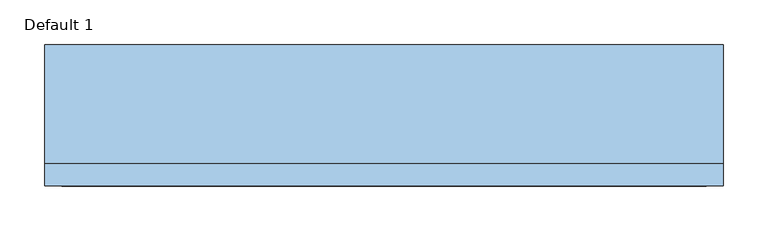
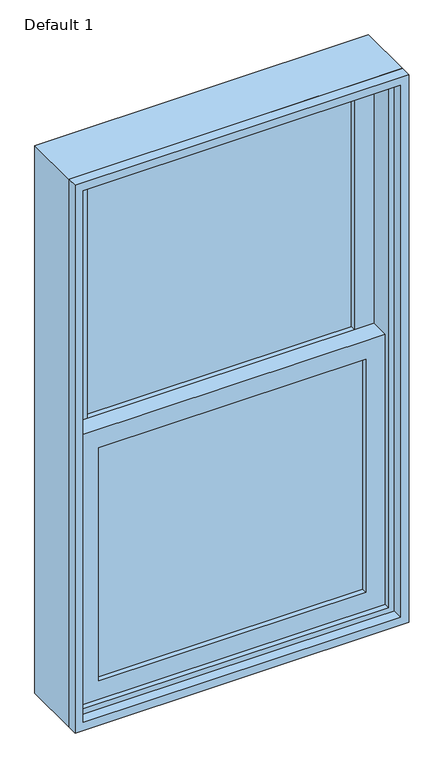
"""IFC4 building model written with IfcOpenShell, lengths in millimetres: window geometry, Planitar-Double-Hung-Single : Default 1."""

import ifcopenshell
import ifcopenshell.guid

model = None  # the IFC model being written
_history = None  # IfcOwnerHistory: only IFC2X3 demands one
_inside = {}  # id of a spatial element -> (the spatial element, [elements in it])
_under = {}  # id of a project, library or spatial element -> (it, [spatial elements below it])
_declared = {}  # id of a project -> (the project, [libraries it declares])
_typed = {}  # id of a type object -> (the type object, [elements of that type])
_made_of = {}  # id of a material, layer set ... -> (it, [elements and type objects made of it])


def new_model(schema):
    """Start an empty IFC model of exactly this schema.

    Asked for "IFC4X3", IfcOpenShell would pick the latest addendum, in which some entities
    have other attributes; the version numbers below select the first issue.
    IFC2X3 requires an IfcOwnerHistory on every rooted entity: one is made here for all.
    """
    global model, _history
    if schema == "IFC4X3":
        model = ifcopenshell.file(schema_version=(4, 3, 0, 0))
    else:
        model = ifcopenshell.file(schema=schema)
    _inside.clear()
    _under.clear()
    _declared.clear()
    _typed.clear()
    _made_of.clear()
    _history = None
    if model.schema == "IFC2X3":
        org = make("IfcOrganization", Name="unknown")
        user = make(
            "IfcPersonAndOrganization",
            ThePerson=make("IfcPerson", FamilyName="unknown"),
            TheOrganization=org,
        )
        app = make(
            "IfcApplication",
            ApplicationDeveloper=org,
            Version="unknown",
            ApplicationFullName="unknown",
            ApplicationIdentifier="unknown",
        )
        _history = make(
            "IfcOwnerHistory",
            OwningUser=user,
            OwningApplication=app,
            ChangeAction="ADDED",
            CreationDate=0,
        )
    return model


def make(cls, **values):
    """One entity of the class cls with the attributes given. An attribute that is None is left unset."""
    return model.create_entity(
        cls, **{name: value for name, value in values.items() if value is not None}
    )


def rooted(cls, **values):
    """An entity with a GlobalId (a new one), such as an element, a storey or a relation."""
    return make(cls, GlobalId=ifcopenshell.guid.new(), OwnerHistory=_history, **values)


def si_unit(unit_type, name, prefix=None):
    """IfcSIUnit, for example si_unit("LENGTHUNIT", "METRE", prefix="MILLI")."""
    return make("IfcSIUnit", UnitType=unit_type, Prefix=prefix, Name=name)


def assignment(units):
    """IfcUnitAssignment: the units of a project."""
    return None if units is None else make("IfcUnitAssignment", Units=units)


def point(xyz):
    """IfcCartesianPoint."""
    return None if xyz is None else make("IfcCartesianPoint", Coordinates=xyz)


def direction(xyz):
    """IfcDirection."""
    return None if xyz is None else make("IfcDirection", DirectionRatios=xyz)


def frame(location, z_axis=None, x_axis=None):
    """IfcAxis2Placement3D, a coordinate frame: its origin and axes. An axis left out is left unset."""
    return make(
        "IfcAxis2Placement3D",
        Location=point(location),
        Axis=direction(z_axis),
        RefDirection=direction(x_axis),
    )


def origin():
    """The frame at (0, 0, 0) with its axes left unset."""
    return frame((0.0, 0.0, 0.0))


def place(relative_to, where):
    """IfcLocalPlacement: puts the frame where relative to a parent placement (None: the world)."""
    return make(
        "IfcLocalPlacement", PlacementRelTo=relative_to, RelativePlacement=where
    )


def context(
    kind, dimensions, precision=None, world=None, true_north=None, identifier=None
):
    """IfcGeometricRepresentationContext, for example the 3D "Model" context."""
    return make(
        "IfcGeometricRepresentationContext",
        ContextIdentifier=identifier,
        ContextType=kind,
        CoordinateSpaceDimension=dimensions,
        Precision=precision,
        WorldCoordinateSystem=world,
        TrueNorth=true_north,
    )


def project(units=None, contexts=None):
    """IfcProject with its units and contexts."""
    return rooted(
        "IfcProject",
        Name="project",
        RepresentationContexts=contexts,
        UnitsInContext=assignment(units),
    )


def spatial(cls, under=None, at=None, **own):
    """A site, building, storey or space (cls), placed at a placement, below another one or the project."""
    s = rooted(cls, ObjectPlacement=at, **own)
    if under is not None:
        _under.setdefault(under.id(), (under, []))[1].append(s)
    return s


def polyline(points):
    """IfcPolyline through the points."""
    return make("IfcPolyline", Points=[point(p) for p in points])


def outline(outer, holes=None, kind="AREA"):
    """IfcArbitraryClosedProfileDef: a profile drawn as a closed curve; with holes, ...WithVoids."""
    if holes is None:
        return make("IfcArbitraryClosedProfileDef", ProfileType=kind, OuterCurve=outer)
    return make(
        "IfcArbitraryProfileDefWithVoids",
        ProfileType=kind,
        OuterCurve=outer,
        InnerCurves=holes,
    )


def extrude(swept, where, along, depth):
    """IfcExtrudedAreaSolid: the profile swept, set in the frame where, extruded along a direction by depth."""
    return make(
        "IfcExtrudedAreaSolid",
        SweptArea=swept,
        Position=where,
        ExtrudedDirection=direction(along),
        Depth=depth,
    )


def shape(context_of_items, identifier, shape_type, items):
    """IfcShapeRepresentation: the items that make up one representation, for example the "Body"."""
    return make(
        "IfcShapeRepresentation",
        ContextOfItems=context_of_items,
        RepresentationIdentifier=identifier,
        RepresentationType=shape_type,
        Items=items,
    )


def source(mapping_origin, context_of_items, identifier, shape_type, items):
    """IfcRepresentationMap: a shape defined once, which mapped items show again and again."""
    return make(
        "IfcRepresentationMap",
        MappingOrigin=mapping_origin,
        MappedRepresentation=shape(context_of_items, identifier, shape_type, items),
    )


def transform(
    local_origin,
    x_axis=None,
    y_axis=None,
    z_axis=None,
    scale=None,
    scale2=None,
    scale3=None,
    uniform=True,
):
    """IfcCartesianTransformationOperator3D, or its non-uniform kind. x_axis, y_axis, z_axis: its Axis1, 2, 3."""
    if uniform:
        return make(
            "IfcCartesianTransformationOperator3D",
            Axis1=direction(x_axis),
            Axis2=direction(y_axis),
            LocalOrigin=point(local_origin),
            Scale=scale,
            Axis3=direction(z_axis),
        )
    return make(
        "IfcCartesianTransformationOperator3DnonUniform",
        Axis1=direction(x_axis),
        Axis2=direction(y_axis),
        LocalOrigin=point(local_origin),
        Scale=scale,
        Axis3=direction(z_axis),
        Scale2=scale2,
        Scale3=scale3,
    )


def mapped(mapping_source, mapping_target):
    """IfcMappedItem: shows the shape of a source again, moved by a transform."""
    return make(
        "IfcMappedItem", MappingSource=mapping_source, MappingTarget=mapping_target
    )


def made_of(thing, what):
    """Note that an element or type object is made of a material, layer set ...; save() writes the relation."""
    if what is not None:
        _made_of.setdefault(what.id(), (what, []))[1].append(thing)
    return thing


def element(
    cls,
    number,
    at=None,
    inside=None,
    cuts=None,
    type_object=None,
    material=None,
    context=None,
    identifier="Body",
    shape_type=None,
    held_by="IfcProductDefinitionShape",
    body=None,
    shapes=None,
    **own,
):
    """One element of the class cls, such as IfcWall. Its Tag is "e" and its number.

    at: its placement. inside: the storey or other place that contains it. cuts: it is an
    opening in that element (IfcRelVoidsElement). A single representation is given by context,
    identifier, shape_type and body (its items); several are given by shapes. held_by: the class
    of the entity that holds the representations. save() writes the other relations.
    """
    e = rooted(cls, Tag="e%d" % number, ObjectPlacement=at, **own)
    if body is not None:
        shapes = [shape(context, identifier, shape_type, body)]
    if shapes is not None:
        e.Representation = make(held_by, Representations=shapes)
    if inside is not None:
        _inside.setdefault(inside.id(), (inside, []))[1].append(e)
    if cuts is not None:
        rooted(
            "IfcRelVoidsElement", RelatingBuildingElement=cuts, RelatedOpeningElement=e
        )
    if type_object is not None:
        _typed.setdefault(type_object.id(), (type_object, []))[1].append(e)
    return made_of(e, material)


def aggregate(whole, parts):
    """IfcRelAggregates: a whole, such as a stair, and the parts it consists of."""
    return rooted("IfcRelAggregates", RelatingObject=whole, RelatedObjects=parts)


def save(model, path):
    """Write the relations noted so far, then the file.

    IfcRelAggregates (storeys below a building ...), IfcRelContainedInSpatialStructure (elements
    in a storey), IfcRelDefinesByType, IfcRelAssociatesMaterial and IfcRelDeclares: one each for
    every whole, place, type object, material and project.
    """
    for whole, parts in _under.values():
        aggregate(whole, parts)
    for where, things in _inside.values():
        rooted(
            "IfcRelContainedInSpatialStructure",
            RelatedElements=things,
            RelatingStructure=where,
        )
    for kind, things in _typed.values():
        rooted("IfcRelDefinesByType", RelatedObjects=things, RelatingType=kind)
    for what, things in _made_of.values():
        rooted("IfcRelAssociatesMaterial", RelatedObjects=things, RelatingMaterial=what)
    for by, libraries in _declared.values():
        rooted("IfcRelDeclares", RelatingContext=by, RelatedDefinitions=libraries)
    model.write(path)


def default_1_68fe8677(model_context):
    return source(origin(), model_context, "Body", "SweptSolid", [
        extrude(outline(polyline([(304.8, 0.0), (304.8, -6.35), (-304.8, -6.35), (-304.8, 0.0), (304.8, 0.0)])), frame((0.0, 0.0, 990.6), z_axis=(0.0, 0.0, 1.0), x_axis=(1.0, 0.0, 0.0)), (0.0, 0.0, 1.0), 561.975),
        extrude(outline(polyline([(-304.8, -12.7), (304.8, -12.7), (304.8, -19.05), (-304.8, -19.05), (-304.8, -12.7)])), frame((0.0, 0.0, 990.6), z_axis=(0.0, 0.0, 1.0), x_axis=(1.0, 0.0, 0.0)), (0.0, 0.0, 1.0), 561.975),
        extrude(outline(polyline([(304.8, 44.45), (304.8, 38.1), (-304.8, 38.1), (-304.8, 44.45), (304.8, 44.45)])), frame((0.0, 0.0, 1597.025), z_axis=(0.0, 0.0, 1.0), x_axis=(1.0, 0.0, 0.0)), (0.0, 0.0, 1.0), 561.975),
        extrude(outline(polyline([(-304.8, 31.75), (304.8, 31.75), (304.8, 25.4), (-304.8, 25.4), (-304.8, 31.75)])), frame((0.0, 0.0, 1597.025), z_axis=(0.0, 0.0, 1.0), x_axis=(1.0, 0.0, 0.0)), (0.0, 0.0, 1.0), 561.975),
        extrude(outline(polyline([(1597.025, -349.25), (946.15, -349.25), (946.15, 349.25), (1597.025, 349.25), (1597.025, -349.25)]), holes=[polyline([(1552.575, 304.8), (990.6, 304.8), (990.6, -304.8), (1552.575, -304.8), (1552.575, 304.8)])]), frame((0.0, -31.75, 0.0), z_axis=(0.0, 1.0, 0.0), x_axis=(0.0, 0.0, 1.0)), (0.0, 0.0, 1.0), 44.45),
        extrude(outline(polyline([(2203.45, -349.25), (1552.575, -349.25), (1552.575, 349.25), (2203.45, 349.25), (2203.45, -349.25)]), holes=[polyline([(2159.0, 304.8), (1597.025, 304.8), (1597.025, -304.8), (2159.0, -304.8), (2159.0, 304.8)])]), frame((0.0, 12.7, 0.0), z_axis=(0.0, 1.0, 0.0), x_axis=(0.0, 0.0, 1.0)), (0.0, 0.0, 1.0), 44.45),
        extrude(outline(polyline([(2235.2, -381.0), (914.4, -381.0), (914.4, 381.0), (2235.2, 381.0), (2235.2, -381.0)]), holes=[polyline([(2203.45, 349.25), (946.15, 349.25), (946.15, -349.25), (2203.45, -349.25), (2203.45, 349.25)])]), frame((0.0, -44.45, 0.0), z_axis=(0.0, 1.0, 0.0), x_axis=(0.0, 0.0, 1.0)), (0.0, 0.0, 1.0), 133.35),
        extrude(outline(polyline([(2235.2, 381.0), (2235.2, -381.0), (914.4, -381.0), (914.4, 381.0), (2235.2, 381.0)]), holes=[polyline([(2216.15, 361.95), (933.45, 361.95), (933.45, -361.95), (2216.15, -361.95), (2216.15, 361.95)])]), frame((0.0, -69.85, 0.0), z_axis=(0.0, 1.0, 0.0), x_axis=(0.0, 0.0, 1.0)), (0.0, 0.0, 1.0), 25.4),
    ])


if __name__ == "__main__":
    model = new_model("IFC4")
    model_context = context("Model", 3, world=origin())
    ifc_project = project(units=[si_unit("LENGTHUNIT", "METRE", prefix="MILLI")], contexts=[model_context])
    site = spatial("IfcSite", under=ifc_project)
    building = spatial("IfcBuilding", under=site)
    placement = place(None, origin())
    default_1_shape = default_1_68fe8677(model_context)
    element("IfcWindow", 1, ObjectType="Planitar-Double-Hung-Single : Default 1", at=placement, inside=building, context=model_context, shape_type="MappedRepresentation", body=[
        mapped(default_1_shape, transform((0.0, 0.0, 0.0), x_axis=(1.0, 0.0, 0.0), y_axis=(0.0, 1.0, 0.0), z_axis=(0.0, 0.0, 1.0))),
    ])
    save(model, "model.ifc")
